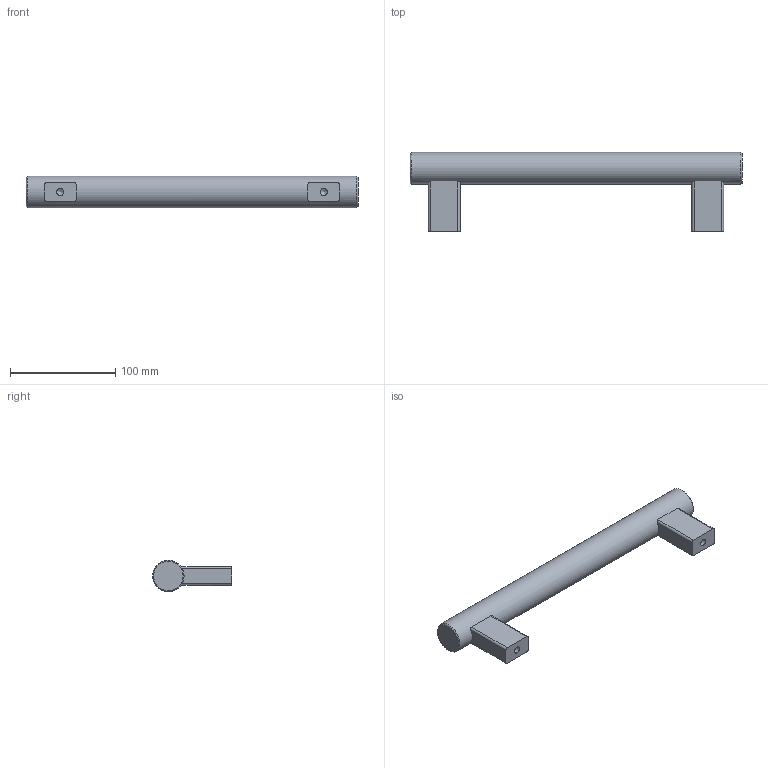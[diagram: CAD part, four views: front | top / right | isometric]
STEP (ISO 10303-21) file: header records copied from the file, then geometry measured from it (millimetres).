
FILE_DESCRIPTION( ( 'STEP AP203' ), '1' );
FILE_NAME( 'C:/Temp/Ganter_Step_05_03_2020/data/1_2/gn_666/Tubular handle GN 666-30-M8-250-EL.stp', '2020-03-05T10:18:16', ( 'License CC BY-ND 4.0' ), ( 'CADENAS' ), ' ', 'PARTsolutions', ' ' );
FILE_SCHEMA( ( 'CONFIG_CONTROL_DESIGN' ) );
Length unit declared in the file: millimetre
Products named in the file (1): _Tubular handle GN 666-30-M8-250-EL
Bounding box: 315 x 75 x 30 mm (x, y, z)
Volume: 270579.9 mm3; surface area: 40412.1 mm2
Topology: 1 solids, 1 shells, 27 faces, 65 edges, 42 vertices
Faces by surface type: plane 12, cylinder 11, cone 4
Full cylindrical faces by diameter (mm): 6.647 x2, 30 x1
Entity records: 882 total; most frequent: CARTESIAN_POINT 238, DIRECTION 124, ORIENTED_EDGE 112, EDGE_CURVE 56, AXIS2_PLACEMENT_3D 48, VERTEX_POINT 42, EDGE_LOOP 36, FACE_OUTER_BOUND 30
